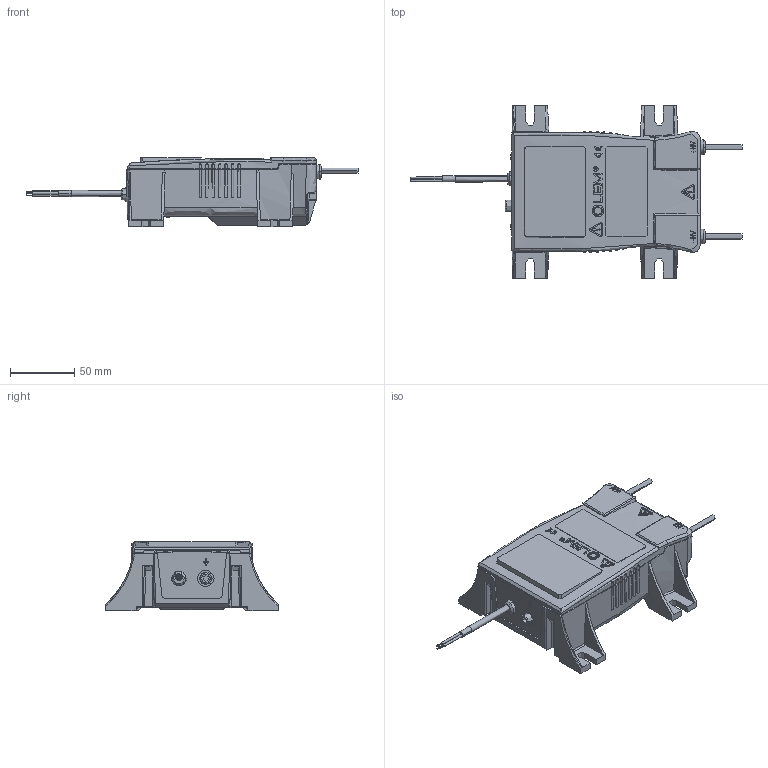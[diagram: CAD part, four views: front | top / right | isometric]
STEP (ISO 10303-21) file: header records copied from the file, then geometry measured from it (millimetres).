
FILE_DESCRIPTION(('Creo Elements/Direct Modeling STEP Export'),'2;1');
FILE_NAME('DV_4200_SP3 in AP203.stp','2019-04-02T17:37:19',(''),(''),'Creo Elements/Direct Modeling STEP processor for AP203 (Solid Model)','Creo Elements/Direct Modeling 20.1 10-Mar-2018 (C) Parametric Technology GmbH','');
FILE_SCHEMA(('CONFIG_CONTROL_DESIGN'));
Length unit declared in the file: millimetre
Products named in the file (16): PCB_9249019570; Skin_Group2; Skin_Group1; Strain_relief_DM2; RADOX_cable_GKW-LW; shield_connexion-M5; vis-M5_lg12_BN610; shield; rondelle_M5_BN561; cable.BB; Skin_Group2.1.1.1BB; Skin_Group2.1.2BB; cable_HT.1BB; cable_HT.1BB.1; case_cable.BB; DV_4200_SP3
Assembly tree (15 placements, depth 4):
  DV_4200_SP3
    case_cable.BB
    cable_HT.1BB.1
    cable_HT.1BB
    Skin_Group2.1.2BB
    Skin_Group2.1.1.1BB
    cable.BB
      rondelle_M5_BN561
      shield
      vis-M5_lg12_BN610
      shield_connexion-M5
      RADOX_cable_GKW-LW
      Strain_relief_DM2
        Skin_Group1
        Skin_Group2
      PCB_9249019570
Bounding box: 257.56 x 134 x 54.22 mm (x, y, z)
Volume: 357219.4 mm3; surface area: 116409.6 mm2
Topology: 12 solids, 18 shells, 2871 faces, 8103 edges, 5356 vertices
Faces by surface type: plane 2145, cylinder 510, bspline 107, torus 44, cone 33, extrusion 32
Entity records: 119366 total; most frequent: CARTESIAN_POINT 44958, ORIENTED_EDGE 16188, DIRECTION 13663, EDGE_CURVE 8094, VECTOR 5897, LINE 5862, VERTEX_POINT 5356, AXIS2_PLACEMENT_3D 3883
